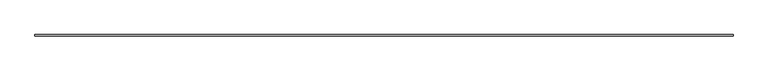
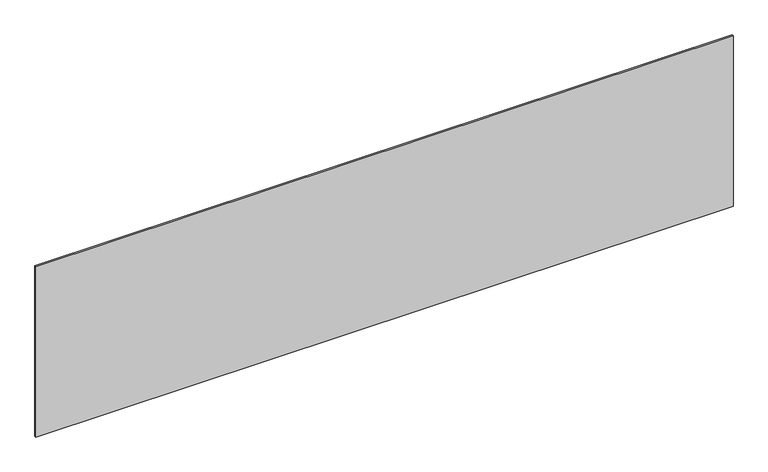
"""IFC4 building model written with IfcOpenShell, lengths in millimetres: plate geometry, システム パネル : 標準."""

import ifcopenshell
import ifcopenshell.guid

model = None  # the IFC model being written
_history = None  # IfcOwnerHistory: only IFC2X3 demands one
_inside = {}  # id of a spatial element -> (the spatial element, [elements in it])
_under = {}  # id of a project, library or spatial element -> (it, [spatial elements below it])
_declared = {}  # id of a project -> (the project, [libraries it declares])
_typed = {}  # id of a type object -> (the type object, [elements of that type])
_made_of = {}  # id of a material, layer set ... -> (it, [elements and type objects made of it])


def new_model(schema):
    """Start an empty IFC model of exactly this schema.

    Asked for "IFC4X3", IfcOpenShell would pick the latest addendum, in which some entities
    have other attributes; the version numbers below select the first issue.
    IFC2X3 requires an IfcOwnerHistory on every rooted entity: one is made here for all.
    """
    global model, _history
    if schema == "IFC4X3":
        model = ifcopenshell.file(schema_version=(4, 3, 0, 0))
    else:
        model = ifcopenshell.file(schema=schema)
    _inside.clear()
    _under.clear()
    _declared.clear()
    _typed.clear()
    _made_of.clear()
    _history = None
    if model.schema == "IFC2X3":
        org = make("IfcOrganization", Name="unknown")
        user = make(
            "IfcPersonAndOrganization",
            ThePerson=make("IfcPerson", FamilyName="unknown"),
            TheOrganization=org,
        )
        app = make(
            "IfcApplication",
            ApplicationDeveloper=org,
            Version="unknown",
            ApplicationFullName="unknown",
            ApplicationIdentifier="unknown",
        )
        _history = make(
            "IfcOwnerHistory",
            OwningUser=user,
            OwningApplication=app,
            ChangeAction="ADDED",
            CreationDate=0,
        )
    return model


def make(cls, **values):
    """One entity of the class cls with the attributes given. An attribute that is None is left unset."""
    return model.create_entity(
        cls, **{name: value for name, value in values.items() if value is not None}
    )


def rooted(cls, **values):
    """An entity with a GlobalId (a new one), such as an element, a storey or a relation."""
    return make(cls, GlobalId=ifcopenshell.guid.new(), OwnerHistory=_history, **values)


def si_unit(unit_type, name, prefix=None):
    """IfcSIUnit, for example si_unit("LENGTHUNIT", "METRE", prefix="MILLI")."""
    return make("IfcSIUnit", UnitType=unit_type, Prefix=prefix, Name=name)


def assignment(units):
    """IfcUnitAssignment: the units of a project."""
    return None if units is None else make("IfcUnitAssignment", Units=units)


def point(xyz):
    """IfcCartesianPoint."""
    return None if xyz is None else make("IfcCartesianPoint", Coordinates=xyz)


def direction(xyz):
    """IfcDirection."""
    return None if xyz is None else make("IfcDirection", DirectionRatios=xyz)


def frame(location, z_axis=None, x_axis=None):
    """IfcAxis2Placement3D, a coordinate frame: its origin and axes. An axis left out is left unset."""
    return make(
        "IfcAxis2Placement3D",
        Location=point(location),
        Axis=direction(z_axis),
        RefDirection=direction(x_axis),
    )


def origin():
    """The frame at (0, 0, 0) with its axes left unset."""
    return frame((0.0, 0.0, 0.0))


def origin_with_axes():
    """The frame at (0, 0, 0) with the z axis (0, 0, 1) and the x axis (1, 0, 0) written out."""
    return frame((0.0, 0.0, 0.0), z_axis=(0.0, 0.0, 1.0), x_axis=(1.0, 0.0, 0.0))


def place(relative_to, where):
    """IfcLocalPlacement: puts the frame where relative to a parent placement (None: the world)."""
    return make(
        "IfcLocalPlacement", PlacementRelTo=relative_to, RelativePlacement=where
    )


def context(
    kind, dimensions, precision=None, world=None, true_north=None, identifier=None
):
    """IfcGeometricRepresentationContext, for example the 3D "Model" context."""
    return make(
        "IfcGeometricRepresentationContext",
        ContextIdentifier=identifier,
        ContextType=kind,
        CoordinateSpaceDimension=dimensions,
        Precision=precision,
        WorldCoordinateSystem=world,
        TrueNorth=true_north,
    )


def project(units=None, contexts=None):
    """IfcProject with its units and contexts."""
    return rooted(
        "IfcProject",
        Name="project",
        RepresentationContexts=contexts,
        UnitsInContext=assignment(units),
    )


def spatial(cls, under=None, at=None, **own):
    """A site, building, storey or space (cls), placed at a placement, below another one or the project."""
    s = rooted(cls, ObjectPlacement=at, **own)
    if under is not None:
        _under.setdefault(under.id(), (under, []))[1].append(s)
    return s


def polyline(points):
    """IfcPolyline through the points."""
    return make("IfcPolyline", Points=[point(p) for p in points])


def outline(outer, holes=None, kind="AREA"):
    """IfcArbitraryClosedProfileDef: a profile drawn as a closed curve; with holes, ...WithVoids."""
    if holes is None:
        return make("IfcArbitraryClosedProfileDef", ProfileType=kind, OuterCurve=outer)
    return make(
        "IfcArbitraryProfileDefWithVoids",
        ProfileType=kind,
        OuterCurve=outer,
        InnerCurves=holes,
    )


def extrude(swept, where, along, depth):
    """IfcExtrudedAreaSolid: the profile swept, set in the frame where, extruded along a direction by depth."""
    return make(
        "IfcExtrudedAreaSolid",
        SweptArea=swept,
        Position=where,
        ExtrudedDirection=direction(along),
        Depth=depth,
    )


def shape(context_of_items, identifier, shape_type, items):
    """IfcShapeRepresentation: the items that make up one representation, for example the "Body"."""
    return make(
        "IfcShapeRepresentation",
        ContextOfItems=context_of_items,
        RepresentationIdentifier=identifier,
        RepresentationType=shape_type,
        Items=items,
    )


def source(mapping_origin, context_of_items, identifier, shape_type, items):
    """IfcRepresentationMap: a shape defined once, which mapped items show again and again."""
    return make(
        "IfcRepresentationMap",
        MappingOrigin=mapping_origin,
        MappedRepresentation=shape(context_of_items, identifier, shape_type, items),
    )


def transform(
    local_origin,
    x_axis=None,
    y_axis=None,
    z_axis=None,
    scale=None,
    scale2=None,
    scale3=None,
    uniform=True,
):
    """IfcCartesianTransformationOperator3D, or its non-uniform kind. x_axis, y_axis, z_axis: its Axis1, 2, 3."""
    if uniform:
        return make(
            "IfcCartesianTransformationOperator3D",
            Axis1=direction(x_axis),
            Axis2=direction(y_axis),
            LocalOrigin=point(local_origin),
            Scale=scale,
            Axis3=direction(z_axis),
        )
    return make(
        "IfcCartesianTransformationOperator3DnonUniform",
        Axis1=direction(x_axis),
        Axis2=direction(y_axis),
        LocalOrigin=point(local_origin),
        Scale=scale,
        Axis3=direction(z_axis),
        Scale2=scale2,
        Scale3=scale3,
    )


def mapped(mapping_source, mapping_target):
    """IfcMappedItem: shows the shape of a source again, moved by a transform."""
    return make(
        "IfcMappedItem", MappingSource=mapping_source, MappingTarget=mapping_target
    )


def made_of(thing, what):
    """Note that an element or type object is made of a material, layer set ...; save() writes the relation."""
    if what is not None:
        _made_of.setdefault(what.id(), (what, []))[1].append(thing)
    return thing


def element(
    cls,
    number,
    at=None,
    inside=None,
    cuts=None,
    type_object=None,
    material=None,
    context=None,
    identifier="Body",
    shape_type=None,
    held_by="IfcProductDefinitionShape",
    body=None,
    shapes=None,
    **own,
):
    """One element of the class cls, such as IfcWall. Its Tag is "e" and its number.

    at: its placement. inside: the storey or other place that contains it. cuts: it is an
    opening in that element (IfcRelVoidsElement). A single representation is given by context,
    identifier, shape_type and body (its items); several are given by shapes. held_by: the class
    of the entity that holds the representations. save() writes the other relations.
    """
    e = rooted(cls, Tag="e%d" % number, ObjectPlacement=at, **own)
    if body is not None:
        shapes = [shape(context, identifier, shape_type, body)]
    if shapes is not None:
        e.Representation = make(held_by, Representations=shapes)
    if inside is not None:
        _inside.setdefault(inside.id(), (inside, []))[1].append(e)
    if cuts is not None:
        rooted(
            "IfcRelVoidsElement", RelatingBuildingElement=cuts, RelatedOpeningElement=e
        )
    if type_object is not None:
        _typed.setdefault(type_object.id(), (type_object, []))[1].append(e)
    return made_of(e, material)


def aggregate(whole, parts):
    """IfcRelAggregates: a whole, such as a stair, and the parts it consists of."""
    return rooted("IfcRelAggregates", RelatingObject=whole, RelatedObjects=parts)


def save(model, path):
    """Write the relations noted so far, then the file.

    IfcRelAggregates (storeys below a building ...), IfcRelContainedInSpatialStructure (elements
    in a storey), IfcRelDefinesByType, IfcRelAssociatesMaterial and IfcRelDeclares: one each for
    every whole, place, type object, material and project.
    """
    for whole, parts in _under.values():
        aggregate(whole, parts)
    for where, things in _inside.values():
        rooted(
            "IfcRelContainedInSpatialStructure",
            RelatedElements=things,
            RelatingStructure=where,
        )
    for kind, things in _typed.values():
        rooted("IfcRelDefinesByType", RelatedObjects=things, RelatingType=kind)
    for what, things in _made_of.values():
        rooted("IfcRelAssociatesMaterial", RelatedObjects=things, RelatingMaterial=what)
    for by, libraries in _declared.values():
        rooted("IfcRelDeclares", RelatingContext=by, RelatedDefinitions=libraries)
    model.write(path)


def plate_e6e96560(model_context):
    return source(origin(), model_context, "Body", "SweptSolid", [
        extrude(outline(polyline([(2264.1666667, -5.0), (-2264.1666667, -5.0), (-2264.1666667, 5.0), (2264.1666667, 5.0), (2264.1666667, -5.0)])), origin_with_axes(), (0.0, 0.0, 1.0), 1169.439502),
    ])


if __name__ == "__main__":
    model = new_model("IFC4")
    model_context = context("Model", 3, world=origin())
    ifc_project = project(units=[si_unit("LENGTHUNIT", "METRE", prefix="MILLI")], contexts=[model_context])
    site = spatial("IfcSite", under=ifc_project)
    building = spatial("IfcBuilding", under=site)
    placement = place(None, origin())
    plate_shape = plate_e6e96560(model_context)
    element("IfcPlate", 1, ObjectType="システム パネル : 標準", at=placement, inside=building, context=model_context, shape_type="MappedRepresentation", body=[
        mapped(plate_shape, transform((0.0, 0.0, 0.0), x_axis=(1.0, 0.0, 0.0), y_axis=(0.0, 1.0, 0.0), z_axis=(0.0, 0.0, 1.0))),
    ])
    save(model, "model.ifc")
